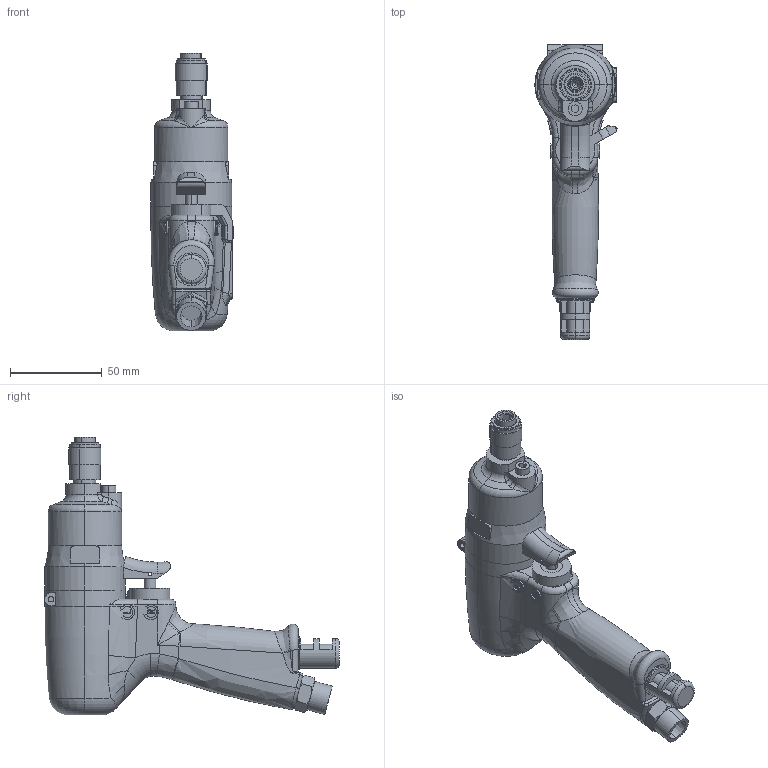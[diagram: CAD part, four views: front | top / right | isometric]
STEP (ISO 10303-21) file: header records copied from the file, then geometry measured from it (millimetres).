
FILE_DESCRIPTION (( 'STEP AP203' ), '1' );
FILE_NAME ('UX-500D.STEP', '2006-08-30T07:55:12', ( '' ), ( '' ), 'SwSTEP 2.0', 'SolidWorks 2003240', '' );
FILE_SCHEMA (( 'CONFIG_CONTROL_DESIGN' ));
Length unit declared in the file: millimetre
Products named in the file (8): 4802128_蹬怮椔; UX-500D; 1770255_蹬怮椔; 1774395_蹬怮椔; 1773507_蹬怮椔; 1771075_蹬怮椔; 0113511_蹬怮椔; 9810020_蹬怮椔
Assembly tree (7 placements, depth 2):
  UX-500D
    0113511_蹬怮椔
    1773507_蹬怮椔
    1774395_蹬怮椔
    1771075_蹬怮椔
    9810020_蹬怮椔
    1770255_蹬怮椔
    4802128_蹬怮椔
Bounding box: 44.8 x 160.6 x 151.3 mm (x, y, z)
Volume: 262551.7 mm3; surface area: 43837.5 mm2
Topology: 7 solids, 7 shells, 678 faces, 1740 edges, 1105 vertices
Faces by surface type: plane 300, cylinder 159, bspline 152, torus 36, cone 29, sphere 2
Entity records: 55531 total; most frequent: CARTESIAN_POINT 39430, ORIENTED_EDGE 3450, DIRECTION 2717, EDGE_CURVE 1725, VERTEX_POINT 1102, AXIS2_PLACEMENT_3D 942, VECTOR 833, LINE 833
